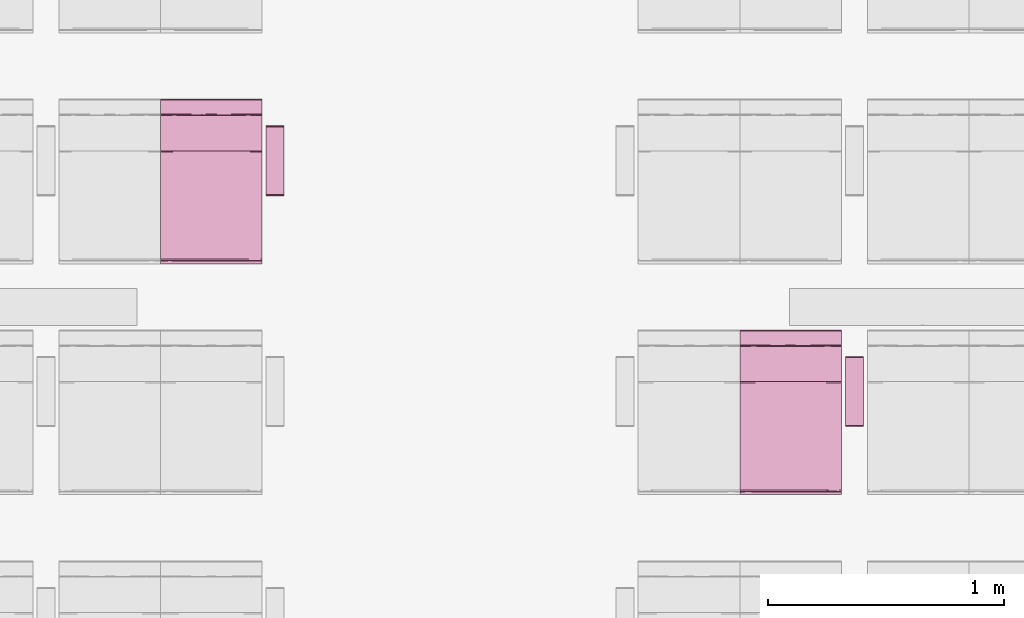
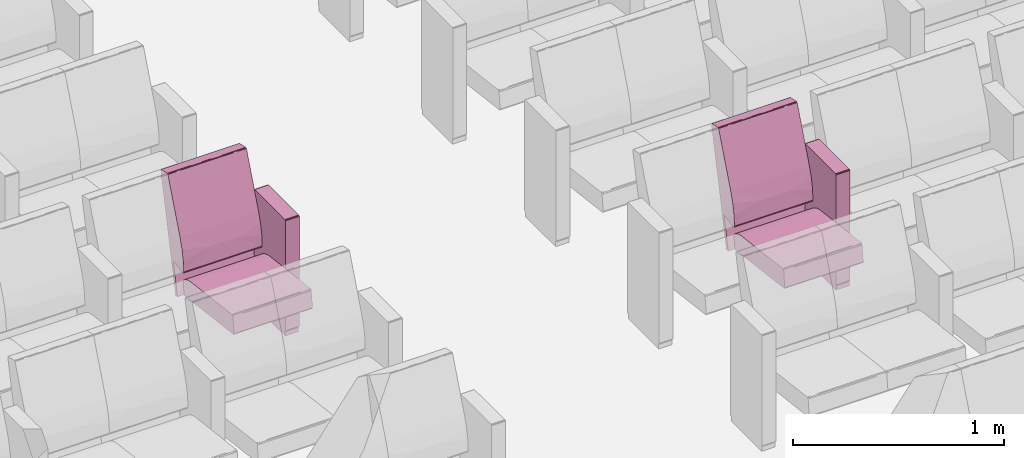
# One storey, part 104 of 155: 2 furnishings.
"""IFC2X3 building model written with IfcOpenShell, lengths in metres."""

from ifc_helpers import new_model, entity, si_unit, converted_unit, derived_unit, direction, frame, origin, place, context, subcontext, project, spatial, faceted_brep, source, transform, mapped, material, material_list, type_object, type_shapes, element, save


model = new_model("IFC2X3")

# Units and contexts
model_context = context("Model", 3, precision=1e-05, world=origin(), true_north=direction((6.12303176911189e-17, 1.0)))
body_context = subcontext(model_context, "Body", "Model", "MODEL_VIEW")
ifc_project = project(units=[si_unit("LENGTHUNIT", "METRE"), si_unit("AREAUNIT", "SQUARE_METRE"), si_unit("VOLUMEUNIT", "CUBIC_METRE"), converted_unit("PLANEANGLEUNIT", "DEGREE", entity("IfcRatioMeasure", 0.0174532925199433), si_unit("PLANEANGLEUNIT", "RADIAN"), dimensions=[0, 0, 0, 0, 0, 0, 0]), si_unit("MASSUNIT", "GRAM", prefix="KILO"), derived_unit("MASSDENSITYUNIT", [(si_unit("MASSUNIT", "GRAM", prefix="KILO"), 1), (si_unit("LENGTHUNIT", "METRE"), -3)]), si_unit("TIMEUNIT", "SECOND"), si_unit("FREQUENCYUNIT", "HERTZ"), si_unit("THERMODYNAMICTEMPERATUREUNIT", "DEGREE_CELSIUS"), derived_unit("THERMALTRANSMITTANCEUNIT", [(si_unit("MASSUNIT", "GRAM", prefix="KILO"), 1), (si_unit("THERMODYNAMICTEMPERATUREUNIT", "KELVIN"), -1), (si_unit("TIMEUNIT", "SECOND"), -3)]), derived_unit("VOLUMETRICFLOWRATEUNIT", [(si_unit("LENGTHUNIT", "METRE"), 3), (si_unit("TIMEUNIT", "SECOND"), -1)]), si_unit("ELECTRICCURRENTUNIT", "AMPERE"), si_unit("ELECTRICVOLTAGEUNIT", "VOLT"), si_unit("POWERUNIT", "WATT"), si_unit("FORCEUNIT", "NEWTON", prefix="KILO"), si_unit("ILLUMINANCEUNIT", "LUX"), si_unit("LUMINOUSFLUXUNIT", "LUMEN"), si_unit("LUMINOUSINTENSITYUNIT", "CANDELA"), derived_unit("USERDEFINED", [(si_unit("MASSUNIT", "GRAM", prefix="KILO"), -1), (si_unit("LENGTHUNIT", "METRE"), -2), (si_unit("TIMEUNIT", "SECOND"), 3), (si_unit("LUMINOUSFLUXUNIT", "LUMEN"), 1)]), derived_unit("LINEARVELOCITYUNIT", [(si_unit("LENGTHUNIT", "METRE"), 1), (si_unit("TIMEUNIT", "SECOND"), -1)]), si_unit("PRESSUREUNIT", "PASCAL"), derived_unit("USERDEFINED", [(si_unit("LENGTHUNIT", "METRE"), -2), (si_unit("MASSUNIT", "GRAM", prefix="KILO"), 1), (si_unit("TIMEUNIT", "SECOND"), -2)])], contexts=[model_context])

# Site, building, storey, space
site_placement = place(None, frame((26.9889013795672, -17.5624287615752, 0.0)))
site = spatial("IfcSite", under=ifc_project, at=site_placement, Name="Default", CompositionType="ELEMENT")
building_placement = place(site_placement, origin())
building = spatial("IfcBuilding", under=site, at=building_placement, Name="C. C. L. Monsenhor Antônio Sampaio", CompositionType="ELEMENT")
storey_placement = place(building_placement, frame((0.0, 0.0, 1.19999999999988)))
storey = spatial("IfcBuildingStorey", under=building, at=storey_placement, Name="Nível 1.2", CompositionType="ELEMENT", Elevation=1.19999999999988)
space_placement = place(storey_placement, origin())
space = spatial("IfcSpace", under=storey, at=space_placement, Name="94", CompositionType="ELEMENT", InteriorOrExteriorSpace="INTERNAL")

# Furnishings
ifc_material_1 = material(Name="V9 - V9 - Ecopelle_672_658")
ifc_material_2 = material(Name="V9 - V9 - RAL_9006_Grigio")
ifc_material_list_1 = material_list([ifc_material_1, ifc_material_2])
ifc_material_list_2 = material_list([ifc_material_1, ifc_material_2])
furniture_type = type_object("IfcFurnitureType", Name="Cadeira auditório", material=ifc_material_list_2)
shared_shape = source(origin(), body_context, "Body", "Brep", [
    faceted_brep([(0.405536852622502, -0.1075, 0.339809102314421), (0.410560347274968, -0.131924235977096, 0.34246450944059), (0.405536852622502, -0.156348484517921, 0.339809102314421), (0.41079981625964, -0.0179166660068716, 0.342749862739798), (0.410597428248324, -0.084060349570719, 0.342506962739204), (0.405536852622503, -0.0537499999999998, 0.339809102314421), (0.410248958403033, -0.173608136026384, 0.342130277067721), (0.405536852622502, -0.215, 0.339809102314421), (0.412515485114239, -0.143333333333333, 0.348529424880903), (0.412515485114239, -0.185674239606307, 0.348529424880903), (0.405536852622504, 0.1075, 0.33980910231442), (0.405536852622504, 0.156348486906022, 0.33980910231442), (0.410560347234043, 0.131924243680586, 0.342464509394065), (0.405536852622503, 0.0, 0.33980910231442), (0.411170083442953, 0.0341365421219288, 0.343251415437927), (0.41251548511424, 0.0, 0.348529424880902), (0.412515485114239, -0.0358333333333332, 0.348529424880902), (0.412515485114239, -0.0716666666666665, 0.348529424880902), (0.41251548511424, 0.143333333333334, 0.348529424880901), (0.41059742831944, 0.0840603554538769, 0.342506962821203), (0.405536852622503, 0.0537500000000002, 0.33980910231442), (0.410248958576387, 0.173608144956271, 0.342130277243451), (0.410799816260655, 0.215, 0.342749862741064), (0.412515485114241, 0.185674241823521, 0.348529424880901), (0.412515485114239, -0.215, 0.348529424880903), (0.410799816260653, -0.215, 0.342749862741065), (0.412515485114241, 0.215, 0.348529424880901), (0.41251548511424, 0.0716666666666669, 0.348529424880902), (0.405536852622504, 0.215, 0.33980910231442), (-0.0557900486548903, -0.215, 0.28268145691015), (-0.0557900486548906, -0.1881249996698, 0.282681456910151), (-0.0557900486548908, -0.161250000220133, 0.282681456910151), (-0.055790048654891, -0.134374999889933, 0.282681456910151), (-0.0557900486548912, -0.107499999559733, 0.282681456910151), (-0.0557900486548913, -0.0806250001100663, 0.282681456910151), (-0.0557900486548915, -0.0537499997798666, 0.282681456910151), (-0.0557900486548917, -0.0268749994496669, 0.282681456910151), (-0.0557900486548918, 0.0, 0.28268145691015), (-0.0557900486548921, 0.0268750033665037, 0.282681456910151), (-0.0557900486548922, 0.0537499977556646, 0.282681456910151), (-0.0557900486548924, 0.0806249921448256, 0.282681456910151), (-0.0557900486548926, 0.107499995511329, 0.282681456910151), (-0.0557900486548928, 0.138065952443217, 0.282681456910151), (-0.055790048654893, 0.168631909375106, 0.282681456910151), (-0.0557900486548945, 0.215, 0.28268145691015), (-0.0594787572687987, -0.0179017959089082, 0.283700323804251), (-0.0613666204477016, 0.0, 0.287029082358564), (-0.0594787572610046, 0.0152829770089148, 0.283700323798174), (-0.0594787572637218, -0.215, 0.283700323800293), (-0.0613666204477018, -0.215, 0.287029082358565), (-0.0613666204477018, -0.191815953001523, 0.287029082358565), (-0.0613666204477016, -0.030565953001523, 0.287029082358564), (-0.0593340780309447, -0.0671874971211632, 0.283591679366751), (-0.0593337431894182, 0.184174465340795, 0.283591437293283), (-0.0594787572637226, 0.215, 0.283700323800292), (-0.0593023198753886, 0.0940625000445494, 0.283568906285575), (-0.0613666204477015, 0.0611319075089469, 0.287029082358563), (-0.0613666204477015, 0.0916978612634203, 0.287029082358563), (-0.0613666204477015, 0.122263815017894, 0.287029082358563), (-0.0597338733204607, -0.147039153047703, 0.283913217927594), (-0.0613666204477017, -0.122263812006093, 0.287029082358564), (-0.059382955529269, -0.118123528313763, 0.28362747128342), (-0.0592501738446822, -0.180223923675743, 0.283532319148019), (-0.0613666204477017, -0.168631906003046, 0.287029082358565), (-0.0588783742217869, -0.0926899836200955, 0.283298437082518), (-0.0613666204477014, 0.168631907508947, 0.287029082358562), (-0.0613666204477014, 0.215, 0.287029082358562), (-0.0592576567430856, 0.123736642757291, 0.283537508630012), (-0.0594787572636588, 0.153348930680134, 0.283700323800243), (-0.0613666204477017, -0.0916978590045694, 0.287029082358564), (-0.0613666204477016, 0.0305659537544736, 0.287029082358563), (-0.059645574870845, 0.045848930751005, 0.283836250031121), (-0.0613666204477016, -0.0611319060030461, 0.287029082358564), (-0.0693403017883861, 0.143333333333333, 0.351419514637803), (-0.069340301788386, 0.215, 0.351419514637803), (-0.0693403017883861, -0.215, 0.351419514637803), (-0.0693403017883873, -0.143333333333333, 0.351419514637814), (-0.069340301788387, -0.0716666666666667, 0.351419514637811), (-0.0693403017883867, 0.0, 0.351419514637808), (-0.0693403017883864, 0.0716666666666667, 0.351419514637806), (-0.0653387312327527, -0.0126787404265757, 0.368680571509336), (-0.0645543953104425, -0.112272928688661, 0.369803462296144), (-0.0597085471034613, 0.0, 0.37476954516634), (-0.0655136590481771, 0.104400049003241, 0.368411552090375), (-0.0681665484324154, 0.0888707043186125, 0.36292533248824), (-0.0694879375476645, -0.0590582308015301, 0.356377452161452), (-0.0695056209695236, 0.125492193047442, 0.356093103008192), (-0.0597085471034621, 0.110316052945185, 0.374769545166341), (-0.0676206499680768, -0.215, 0.364371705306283), (-0.0672851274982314, -0.108066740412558, 0.365148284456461), (-0.0690003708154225, -0.132942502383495, 0.359900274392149), (-0.068624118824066, -0.215, 0.356813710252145), (-0.0686241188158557, 0.214999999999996, 0.356813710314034), (-0.0694502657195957, 0.0358333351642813, 0.356863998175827), (-0.0686999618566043, -0.035833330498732, 0.36116674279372), (-0.067620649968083, 0.214999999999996, 0.364371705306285), (-0.063664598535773, 0.214999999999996, 0.369570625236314), (-0.0597085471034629, 0.214999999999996, 0.374769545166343), (-0.0597085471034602, -0.110316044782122, 0.374769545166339), (-0.0636645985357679, -0.215, 0.36957062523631), (-0.0597085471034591, -0.215, 0.374769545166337), (-0.0018793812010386, -0.215, 0.398686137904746), (-0.0324117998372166, -0.0436847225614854, 0.39063968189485), (-0.0324117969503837, -0.215, 0.390639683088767), (-0.041847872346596, 0.0856576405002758, 0.386239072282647), (-0.00187938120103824, 0.102488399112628, 0.398686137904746), (-0.00187938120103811, 0.215, 0.398686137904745), (-0.0324117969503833, 0.215, 0.390639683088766), (-0.0219042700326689, 0.0570631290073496, 0.394412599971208), (-0.00187938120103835, 0.0, 0.398686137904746), (0.392202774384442, -0.215, 0.447486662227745), (0.392202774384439, -0.156349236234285, 0.447486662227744), (0.392202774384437, -0.107499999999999, 0.447486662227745), (0.392202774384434, -0.0537499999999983, 0.447486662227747), (0.392202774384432, 0.0, 0.447486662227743), (0.392202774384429, 0.0537500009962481, 0.44748666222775), (0.392202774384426, 0.107500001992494, 0.447486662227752), (0.392202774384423, 0.156349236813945, 0.447486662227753), (0.392202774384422, 0.215, 0.447486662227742), (0.397860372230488, 0.0827732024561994, 0.446039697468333), (0.401125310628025, 0.0976984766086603, 0.440530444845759), (0.398104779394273, 0.131924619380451, 0.445856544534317), (0.397373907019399, 0.173462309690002, 0.446363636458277), (0.401125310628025, 0.156349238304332, 0.440530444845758), (0.401125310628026, 0.215000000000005, 0.440530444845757), (0.398104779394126, 0.215000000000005, 0.445856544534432), (0.397860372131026, -0.0827731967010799, 0.446039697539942), (0.398104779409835, -0.131924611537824, 0.445856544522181), (0.398104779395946, -0.0268749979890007, 0.445856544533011), (0.398104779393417, 0.0237489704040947, 0.445856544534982), (0.401125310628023, -0.0488492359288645, 0.440530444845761), (0.401125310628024, 0.0488492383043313, 0.44053044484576), (0.398774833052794, -0.173462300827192, 0.445271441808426), (0.401125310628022, -0.0976984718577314, 0.440530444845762), (0.39810477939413, -0.215, 0.445856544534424), (0.401125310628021, -0.215, 0.440530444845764), (0.401125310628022, -0.156349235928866, 0.440530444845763), (0.401125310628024, 0.0, 0.44053044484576)], [[[0, 1, 2]], [[3, 4, 5]], [[2, 6, 7]], [[8, 9, 6]], [[10, 11, 12]], [[13, 3, 5]], [[3, 14, 15]], [[1, 4, 8]], [[6, 1, 8]], [[4, 3, 16]], [[16, 17, 8, 4]], [[12, 18, 19]], [[4, 1, 0]], [[20, 14, 13]], [[21, 22, 23]], [[15, 16, 3]], [[9, 24, 25]], [[26, 23, 22]], [[7, 6, 25]], [[12, 11, 21]], [[19, 14, 20]], [[4, 0, 5]], [[14, 27, 15]], [[13, 14, 3]], [[19, 18, 27]], [[19, 10, 12]], [[18, 21, 23]], [[10, 19, 20]], [[19, 27, 14]], [[2, 1, 6]], [[21, 11, 28]], [[25, 6, 9]], [[18, 12, 21]], [[22, 21, 28]], [[28, 11, 10, 20, 13, 5, 0, 2, 7, 29, 30, 31, 32, 33, 34, 35, 36, 37, 38, 39, 40, 41, 42, 43, 44]], [[45, 46, 47]], [[48, 49, 50]], [[51, 45, 52]], [[53, 54, 44]], [[55, 56, 57, 58]], [[59, 60, 61]], [[62, 63, 59]], [[34, 64, 52]], [[53, 65, 66]], [[41, 67, 42]], [[37, 36, 35, 45, 47, 38]], [[43, 42, 68]], [[29, 48, 30]], [[59, 31, 62]], [[62, 48, 50]], [[61, 69, 64]], [[65, 53, 68]], [[50, 63, 62]], [[62, 30, 48]], [[55, 58, 67]], [[32, 31, 59]], [[46, 70, 47]], [[65, 68, 58]], [[55, 40, 71]], [[70, 56, 71]], [[61, 33, 32]], [[59, 63, 60]], [[39, 38, 71, 40]], [[47, 71, 38]], [[51, 46, 45]], [[70, 71, 47]], [[71, 56, 55]], [[40, 55, 41]], [[67, 68, 42]], [[43, 68, 53]], [[43, 53, 44]], [[66, 54, 53]], [[68, 67, 58]], [[55, 67, 41]], [[72, 51, 52, 69]], [[62, 31, 30]], [[59, 61, 32]], [[35, 52, 45]], [[64, 34, 33]], [[34, 52, 35]], [[61, 60, 69]], [[52, 64, 69]], [[61, 64, 33]], [[73, 74, 66, 65, 58, 57, 56, 70, 46, 51, 72, 69, 60, 63, 50, 49, 75, 76, 77, 78, 79]], [[80, 81, 82]], [[83, 84, 80]], [[85, 78, 77, 76]], [[73, 79, 86]], [[80, 82, 83]], [[87, 83, 82]], [[88, 89, 90]], [[76, 75, 91]], [[92, 74, 73]], [[91, 90, 85]], [[80, 89, 81]], [[84, 93, 94]], [[84, 86, 93]], [[93, 78, 85]], [[73, 86, 92]], [[94, 93, 85]], [[95, 92, 84]], [[78, 93, 79]], [[80, 84, 94]], [[83, 96, 95]], [[94, 85, 90]], [[87, 97, 96]], [[98, 99, 100]], [[91, 85, 76]], [[94, 90, 89]], [[90, 91, 88]], [[89, 80, 94]], [[89, 99, 81]], [[89, 88, 99]], [[82, 81, 98]], [[81, 99, 98]], [[92, 86, 84]], [[93, 86, 79]], [[84, 83, 95]], [[96, 83, 87]], [[101, 102, 103]], [[104, 97, 87, 82]], [[105, 106, 107]], [[107, 108, 105]], [[109, 102, 101]], [[82, 102, 104]], [[102, 108, 104]], [[103, 102, 100]], [[97, 104, 107]], [[104, 108, 107]], [[102, 82, 98, 100]], [[105, 108, 109]], [[108, 102, 109]], [[109, 101, 110, 111, 112, 113, 114, 115, 116, 117, 118, 106, 105]], [[119, 120, 121]], [[122, 123, 124]], [[122, 125, 118]], [[126, 113, 112]], [[117, 121, 122]], [[121, 117, 116]], [[112, 111, 127]], [[113, 128, 129, 115, 114]], [[126, 130, 128]], [[129, 131, 119]], [[111, 132, 127]], [[132, 111, 110]], [[133, 126, 127]], [[123, 122, 121]], [[132, 134, 135]], [[127, 132, 136]], [[123, 121, 120]], [[127, 136, 133]], [[129, 128, 130, 137, 131]], [[112, 127, 126]], [[126, 133, 130]], [[119, 121, 116]], [[113, 126, 128]], [[119, 115, 129]], [[119, 116, 115]], [[120, 119, 131]], [[117, 122, 118]], [[124, 125, 122]], [[136, 132, 135]], [[110, 134, 132]], [[137, 130, 133, 136, 135, 24, 9, 8, 17, 16, 15, 27, 18, 23, 26, 124, 123, 120, 131]], [[44, 54, 66, 74, 92, 95, 96, 97, 107, 106, 118, 125, 124, 26, 22, 28]], [[75, 49, 48, 29, 7, 25, 24, 135, 134, 110, 101, 103, 100, 99, 88, 91]]]),
    faceted_brep([(0.119812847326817, 0.27, 0.674900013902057), (0.12334838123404, 0.259944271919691, 0.6734355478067), (0.123144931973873, 0.283972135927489, 0.673627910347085), (0.124812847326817, 0.27, 0.669900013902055), (0.119812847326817, 0.232, 0.674900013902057), (0.12334838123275, 0.232, 0.673435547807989), (0.124812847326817, 0.308, 0.669900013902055), (0.119812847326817, 0.308, 0.674900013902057), (0.124812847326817, 0.249888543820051, 0.669900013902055), (0.124812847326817, 0.232, 0.669900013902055), (0.12334838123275, 0.308, 0.673435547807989), (0.124812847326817, 0.232, 0.0349999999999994), (0.124812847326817, 0.27, 0.035), (0.124812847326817, 0.308, 0.035), (0.12334838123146, 0.25994427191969, 0.0314644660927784), (0.123540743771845, 0.283972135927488, 0.0316679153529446), (0.119812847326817, 0.27, 0.0300000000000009), (0.12334838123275, 0.232, 0.0314644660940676), (0.119812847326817, 0.308, 0.0300000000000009), (0.119812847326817, 0.249888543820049, 0.030000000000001), (0.119812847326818, 0.232, 0.030000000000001), (0.123348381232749, 0.308, 0.0314644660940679), (-0.167179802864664, 0.27, 0.0300000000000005), (-0.167179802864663, 0.308, 0.0300000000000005), (-0.167179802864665, 0.232, 0.0300000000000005), (-0.170715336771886, 0.25994427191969, 0.0314644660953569), (-0.17051188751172, 0.283972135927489, 0.0312721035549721), (-0.172179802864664, 0.27, 0.0350000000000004), (-0.170715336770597, 0.232, 0.0314644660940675), (-0.172179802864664, 0.308, 0.0350000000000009), (-0.172179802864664, 0.24988854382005, 0.0350000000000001), (-0.172179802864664, 0.232, 0.0349999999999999), (-0.170715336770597, 0.308, 0.0314644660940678), (-0.172179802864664, 0.308, 0.669900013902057), (-0.172179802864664, 0.232, 0.669900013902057), (-0.172179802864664, 0.27, 0.669900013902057), (-0.170715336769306, 0.259944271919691, 0.673435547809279), (-0.170907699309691, 0.283972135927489, 0.673232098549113), (-0.167179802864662, 0.27, 0.674900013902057), (-0.170715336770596, 0.232, 0.67343554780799), (-0.167179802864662, 0.308, 0.674900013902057), (-0.167179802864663, 0.249888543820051, 0.674900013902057), (-0.167179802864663, 0.232, 0.674900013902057), (-0.170715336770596, 0.308, 0.67343554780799)], [[[0, 1, 2]], [[3, 2, 1]], [[0, 4, 5, 1]], [[2, 3, 6]], [[0, 2, 7]], [[8, 3, 1, 5, 9]], [[7, 2, 10]], [[6, 10, 2]], [[9, 11, 12, 13, 6, 3, 8]], [[12, 14, 15]], [[16, 15, 14]], [[12, 11, 17, 14]], [[15, 16, 18]], [[12, 15, 13]], [[19, 16, 14, 17, 20]], [[13, 15, 21]], [[18, 21, 15]], [[22, 23, 18, 16, 19, 20, 24]], [[22, 25, 26]], [[27, 26, 25]], [[22, 24, 28, 25]], [[26, 27, 29]], [[22, 26, 23]], [[30, 27, 25, 28, 31]], [[23, 26, 32]], [[29, 32, 26]], [[33, 29, 27, 30, 31, 34, 35]], [[35, 36, 37]], [[38, 37, 36]], [[35, 34, 39, 36]], [[37, 38, 40]], [[35, 37, 33]], [[41, 38, 36, 39, 42]], [[33, 37, 43]], [[40, 43, 37]], [[0, 7, 40, 38, 41, 42, 4]], [[42, 39, 34, 31, 28, 24, 20, 17, 11, 9, 5, 4]], [[23, 32, 29, 33, 43, 40, 7, 10, 6, 13, 21, 18]]]),
    faceted_brep([(-0.0655618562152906, -0.215, 0.415143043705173), (-0.0744051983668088, -0.0524423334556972, 0.506888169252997), (-0.0695672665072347, -0.215, 0.476508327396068), (-0.0655618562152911, 0.0, 0.415143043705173), (-0.0744051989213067, 0.0780075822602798, 0.506888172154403), (-0.0655618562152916, 0.1075, 0.415143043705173), (-0.0655618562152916, 0.215, 0.415143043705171), (-0.0655618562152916, -0.1075, 0.415143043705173), (-0.0695672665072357, 0.215, 0.476508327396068), (-0.0811110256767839, 0.215, 0.536911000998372), (-0.0811110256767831, -0.215, 0.536911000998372), (-0.100016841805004, 0.0, 0.595428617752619), (-0.100016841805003, -0.215, 0.595428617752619), (-0.100016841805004, 0.215, 0.595428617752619), (-0.0792851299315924, -0.0716666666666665, 0.404772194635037), (-0.0792851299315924, 0.0, 0.404772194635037), (-0.0698317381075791, -0.0358333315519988, 0.406528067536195), (-0.0698317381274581, 0.215, 0.406528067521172), (-0.0792851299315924, 0.143333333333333, 0.404772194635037), (-0.0792851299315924, 0.215, 0.404772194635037), (-0.0698317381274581, -0.215, 0.406528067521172), (-0.0792851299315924, -0.215, 0.404772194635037), (-0.0792851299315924, -0.143333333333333, 0.404772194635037), (-0.0694171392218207, -0.140338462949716, 0.406857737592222), (-0.0708115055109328, 0.0356393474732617, 0.405868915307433), (-0.0703502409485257, 0.107500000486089, 0.406159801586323), (-0.0792851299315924, 0.0716666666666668, 0.404772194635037), (-0.163837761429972, 0.215, 0.420611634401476), (-0.163837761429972, -0.215, 0.420611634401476), (-0.123612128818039, -0.215, 0.235917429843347), (-0.123612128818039, 0.215, 0.235917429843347), (-0.142059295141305, -0.215, 0.231899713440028), (-0.142059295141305, 0.215, 0.231899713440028), (-0.235388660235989, -0.215, 0.652619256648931), (-0.235388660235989, 0.215, 0.652619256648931), (-0.28428001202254, 0.0, 0.873004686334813), (-0.284280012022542, 0.0268749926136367, 0.873004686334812), (-0.284280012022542, 0.0537499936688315, 0.873004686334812), (-0.284280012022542, 0.0806249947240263, 0.873004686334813), (-0.284280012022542, 0.107499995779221, 0.873004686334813), (-0.284280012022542, 0.134374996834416, 0.873004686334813), (-0.284280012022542, 0.161249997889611, 0.873004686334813), (-0.284280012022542, 0.191295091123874, 0.873004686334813), (-0.28428001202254, 0.215, 0.873004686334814), (-0.284280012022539, -0.215, 0.873004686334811), (-0.28428001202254, -0.191295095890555, 0.873004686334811), (-0.284280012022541, -0.161249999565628, 0.873004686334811), (-0.284280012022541, -0.134374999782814, 0.873004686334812), (-0.284280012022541, -0.1075, 0.873004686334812), (-0.284280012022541, -0.0806250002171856, 0.873004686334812), (-0.284280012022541, -0.0537500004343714, 0.873004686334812), (-0.284280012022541, -0.0268749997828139, 0.873004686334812), (-0.283504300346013, -0.0569644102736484, 0.877068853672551), (-0.283746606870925, -0.0872244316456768, 0.876674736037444), (-0.283641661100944, 0.12093750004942, 0.876855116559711), (-0.283567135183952, 0.15546176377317, 0.876973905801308), (-0.28330409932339, -0.185293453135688, 0.877344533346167), (-0.283567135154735, -0.155461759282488, 0.876973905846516), (-0.280514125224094, 0.0, 0.879190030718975), (-0.280514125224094, 0.0358333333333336, 0.879190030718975), (-0.283641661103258, 0.0136463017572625, 0.876855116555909), (-0.283641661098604, -0.0179166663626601, 0.876855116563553), (-0.280514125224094, -0.0358333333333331, 0.879190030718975), (-0.280514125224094, 0.1075, 0.879190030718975), (-0.280514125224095, 0.143333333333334, 0.879190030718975), (-0.283746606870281, 0.0872244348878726, 0.876674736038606), (-0.280514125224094, 0.071666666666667, 0.879190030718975), (-0.280514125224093, -0.1075, 0.879190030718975), (-0.280514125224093, -0.0716666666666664, 0.879190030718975), (-0.280514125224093, -0.143333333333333, 0.879190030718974), (-0.283641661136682, -0.120937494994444, 0.876855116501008), (-0.283641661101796, -0.215, 0.876855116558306), (-0.283641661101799, 0.215, 0.876855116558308), (-0.280514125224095, 0.167590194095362, 0.879190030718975), (-0.283304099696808, 0.18529345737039, 0.877344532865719), (-0.280514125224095, 0.215, 0.879190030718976), (-0.280514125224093, -0.167590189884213, 0.879190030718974), (-0.280514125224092, -0.215, 0.879190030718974), (-0.283504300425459, 0.0569644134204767, 0.8770688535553), (-0.221112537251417, -0.215, 0.892176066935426), (-0.221112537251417, -0.19181594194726, 0.892176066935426), (-0.221112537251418, -0.16124999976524, 0.892176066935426), (-0.221112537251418, -0.13437499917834, 0.892176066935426), (-0.221112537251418, -0.10749999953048, 0.892176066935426), (-0.221112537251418, -0.08062499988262, 0.892176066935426), (-0.221112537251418, -0.0537500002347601, 0.892176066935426), (-0.221112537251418, -0.0268750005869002, 0.892176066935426), (-0.221112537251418, 0.0, 0.892176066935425), (-0.221112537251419, 0.0268750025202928, 0.892176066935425), (-0.221112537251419, 0.053749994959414, 0.892176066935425), (-0.221112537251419, 0.0806249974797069, 0.892176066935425), (-0.221112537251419, 0.1075, 0.892176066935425), (-0.221112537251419, 0.134375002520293, 0.892176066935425), (-0.221112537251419, 0.161250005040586, 0.892176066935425), (-0.221112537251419, 0.191815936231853, 0.892176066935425), (-0.221112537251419, 0.215, 0.892176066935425), (-0.217722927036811, -0.0162353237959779, 0.891719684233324), (-0.215419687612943, -0.0358333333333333, 0.889191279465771), (-0.215419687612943, 0.0, 0.889191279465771), (-0.217722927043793, 0.0134375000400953, 0.891719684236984), (-0.217722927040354, 0.120937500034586, 0.89171968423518), (-0.217722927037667, 0.0912646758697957, 0.891719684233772), (-0.215419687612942, 0.0716666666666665, 0.88919127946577), (-0.215419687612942, 0.1075, 0.88919127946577), (-0.215419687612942, 0.143333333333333, 0.88919127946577), (-0.217722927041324, 0.215, 0.891719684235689), (-0.217722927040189, 0.182482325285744, 0.891719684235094), (-0.215419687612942, 0.168631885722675, 0.889191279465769), (-0.215419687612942, 0.191815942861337, 0.889191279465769), (-0.215419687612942, 0.215, 0.889191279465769), (-0.217722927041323, -0.215, 0.89171968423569), (-0.215419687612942, -0.215, 0.889191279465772), (-0.215419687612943, -0.191815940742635, 0.889191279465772), (-0.217722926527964, -0.190103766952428, 0.891719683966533), (-0.2179983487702, 0.039082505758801, 0.891853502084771), (-0.217816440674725, 0.0647800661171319, 0.891767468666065), (-0.217558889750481, 0.155982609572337, 0.891629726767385), (-0.217722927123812, -0.120937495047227, 0.891719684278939), (-0.217558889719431, -0.15598260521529, 0.891629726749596), (-0.215419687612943, -0.143333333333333, 0.889191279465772), (-0.215419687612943, -0.16863188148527, 0.889191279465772), (-0.215419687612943, -0.0716666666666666, 0.889191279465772), (-0.217816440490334, -0.0647800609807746, 0.891767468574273), (-0.217722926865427, -0.0912646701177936, 0.891719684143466), (-0.215419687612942, 0.0358333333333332, 0.889191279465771), (-0.215419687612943, -0.1075, 0.889191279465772), (-0.218257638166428, -0.0404491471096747, 0.891961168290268)], [[[0, 1, 2]], [[3, 4, 1]], [[4, 3, 5, 6]], [[1, 0, 7, 3]], [[8, 4, 6]], [[9, 4, 8]], [[1, 10, 2]], [[1, 11, 12]], [[9, 13, 4]], [[13, 11, 4]], [[10, 1, 12]], [[11, 1, 4]], [[14, 15, 16]], [[17, 18, 19]], [[20, 21, 22]], [[20, 23, 0]], [[3, 7, 16]], [[15, 24, 16]], [[24, 25, 5]], [[22, 23, 20]], [[7, 23, 16]], [[6, 5, 17]], [[16, 24, 3]], [[16, 23, 14]], [[23, 22, 14]], [[18, 25, 26]], [[18, 17, 25]], [[26, 24, 15]], [[7, 0, 23]], [[5, 25, 17]], [[25, 24, 26]], [[3, 24, 5]], [[27, 19, 18, 26, 15, 14, 22, 21, 28]], [[27, 28, 29, 30]], [[31, 32, 30, 29]], [[33, 34, 32, 31]], [[35, 36, 37, 38, 39, 40, 41, 42, 43, 34, 33, 44, 45, 46, 47, 48, 49, 50, 51]], [[52, 49, 53]], [[54, 55, 40]], [[46, 56, 57]], [[58, 59, 60, 61, 62]], [[54, 63, 64]], [[65, 66, 63]], [[67, 68, 53]], [[57, 69, 70]], [[45, 56, 46]], [[39, 54, 40]], [[45, 44, 71]], [[72, 43, 42]], [[35, 51, 61, 60, 36]], [[55, 73, 74]], [[39, 65, 54]], [[74, 73, 75]], [[67, 53, 70]], [[74, 42, 41]], [[64, 73, 55]], [[56, 76, 57]], [[74, 72, 42]], [[76, 56, 77]], [[56, 71, 77]], [[57, 76, 69]], [[48, 70, 53]], [[70, 48, 47]], [[60, 78, 36]], [[63, 54, 65]], [[71, 56, 45]], [[41, 55, 74]], [[72, 74, 75]], [[57, 70, 47]], [[47, 46, 57]], [[69, 67, 70]], [[50, 49, 52, 51]], [[52, 62, 61]], [[61, 51, 52]], [[55, 41, 40]], [[55, 54, 64]], [[66, 65, 78]], [[65, 38, 78]], [[52, 53, 68]], [[37, 36, 78, 38]], [[78, 59, 66]], [[59, 78, 60]], [[49, 48, 53]], [[65, 39, 38]], [[52, 68, 62]], [[79, 80, 81, 82, 83, 84, 85, 86, 87, 88, 89, 90, 91, 92, 93, 94, 95, 75, 73, 64, 63, 66, 59, 58, 62, 68, 67, 69, 76, 77]], [[96, 97, 98, 99]], [[100, 101, 102, 103, 104]], [[105, 106, 107, 108, 109]], [[110, 111, 112]], [[80, 110, 113]], [[89, 114, 115]], [[92, 116, 93]], [[94, 93, 106, 105, 95]], [[80, 79, 110]], [[92, 91, 90, 101, 100]], [[99, 88, 87, 86, 96]], [[104, 107, 116]], [[117, 83, 82]], [[117, 118, 119]], [[112, 120, 113]], [[118, 120, 119]], [[118, 81, 113]], [[116, 107, 106]], [[101, 90, 115]], [[121, 122, 123]], [[104, 116, 100]], [[110, 112, 113]], [[114, 99, 124]], [[92, 100, 116]], [[117, 125, 123]], [[82, 81, 118]], [[118, 117, 82]], [[83, 117, 123]], [[125, 117, 119]], [[102, 101, 115]], [[84, 83, 123]], [[123, 125, 121]], [[85, 84, 122]], [[89, 115, 90]], [[96, 86, 126]], [[124, 102, 115]], [[88, 99, 114]], [[99, 98, 124]], [[122, 121, 97]], [[126, 122, 97]], [[88, 114, 89]], [[115, 114, 124]], [[123, 122, 84]], [[126, 85, 122]], [[85, 126, 86]], [[96, 126, 97]], [[116, 106, 93]], [[80, 113, 81]], [[118, 113, 120]], [[12, 11, 13, 109, 108, 107, 104, 103, 102, 124, 98, 97, 121, 125, 119, 120, 112, 111]], [[30, 32, 34, 43, 72, 75, 95, 105, 109, 13, 9, 8, 6, 17, 19, 27]], [[77, 71, 44, 33, 31, 29, 28, 21, 20, 0, 2, 10, 12, 111, 110, 79]]]),
    faceted_brep([(0.120312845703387, 0.2335, 0.0), (0.120312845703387, 0.3065, 0.0), (0.120312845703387, 0.3065, 0.0260000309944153), (0.120312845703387, 0.27, 0.0260000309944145), (0.120312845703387, 0.249500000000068, 0.0260000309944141), (0.120312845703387, 0.2335, 0.0260000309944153), (-0.167687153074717, 0.2335, 0.0), (-0.167687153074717, 0.3065, 0.0), (-0.167687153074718, 0.3065, 0.0260000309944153), (-0.167687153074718, 0.2335, 0.0260000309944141), (-0.167687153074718, 0.27, 0.0260000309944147), (-0.163702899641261, 0.233500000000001, 0.0300000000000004), (-0.166521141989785, 0.257382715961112, 0.0288228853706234), (-0.166521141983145, 0.233500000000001, 0.0288228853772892), (-0.166521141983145, 0.3065, 0.0288228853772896), (-0.16652114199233, 0.279986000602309, 0.0288228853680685), (-0.163702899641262, 0.3065, 0.0300000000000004), (-0.163702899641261, 0.27, 0.0300000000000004), (0.116297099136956, 0.2335, 0.0300000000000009), (0.116297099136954, 0.270000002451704, 0.0300000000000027), (0.116297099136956, 0.3065, 0.0300000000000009), (0.119033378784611, 0.283124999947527, 0.0289323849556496), (0.119135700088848, 0.259750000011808, 0.0288340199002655), (0.1191357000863, 0.2335, 0.0288340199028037), (0.119135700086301, 0.3065, 0.0288340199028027)], [[[0, 1, 2, 3, 4, 5]], [[6, 7, 1, 0]], [[8, 7, 6, 9, 10]], [[11, 12, 13]], [[14, 15, 16]], [[17, 16, 15, 12, 11]], [[13, 12, 10, 9]], [[8, 15, 14]], [[12, 15, 8, 10]], [[16, 17, 11, 18, 19, 20]], [[3, 2, 21]], [[22, 19, 18, 23]], [[22, 23, 5, 4, 3]], [[20, 21, 24]], [[22, 3, 21]], [[19, 21, 20]], [[2, 24, 21]], [[19, 22, 21]], [[20, 24, 2, 1, 7, 8, 14, 16]], [[18, 11, 13, 9, 6, 0, 5, 23]]]),
])
type_shapes(furniture_type, [shared_shape])
furnishing_1_placement = place(space_placement, frame((-8.60594929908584, -15.3086263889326, 0.0), z_axis=(0.0, 0.0, 1.0), x_axis=(0.0, -1.0, 0.0)))
element("IfcFurnishingElement", 1, at=furnishing_1_placement, inside=space, type_object=furniture_type, material=ifc_material_list_1, Name="cadeira auditório pcd:Cadeira auditório", ObjectType="Cadeira auditório", context=body_context, shape_type="MappedRepresentation", body=[
    mapped(shared_shape, transform((0.0, 0.0, 0.0), scale=1.0)),
])
ifc_material_list_3 = material_list([ifc_material_1, ifc_material_2])
furnishing_2_placement = place(space_placement, frame((-11.0559492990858, -14.3320195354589, 0.0), z_axis=(0.0, 0.0, 1.0), x_axis=(0.0, -1.0, 0.0)))
element("IfcFurnishingElement", 2, at=furnishing_2_placement, inside=space, type_object=furniture_type, material=ifc_material_list_3, Name="cadeira auditório pcd:Cadeira auditório", ObjectType="Cadeira auditório", context=body_context, shape_type="MappedRepresentation", body=[
    mapped(shared_shape, transform((0.0, 0.0, 0.0), scale=1.0)),
])

save(model, "model.ifc")
